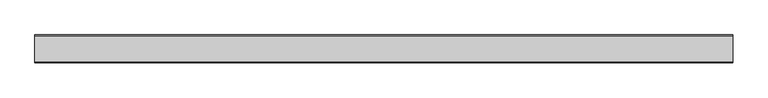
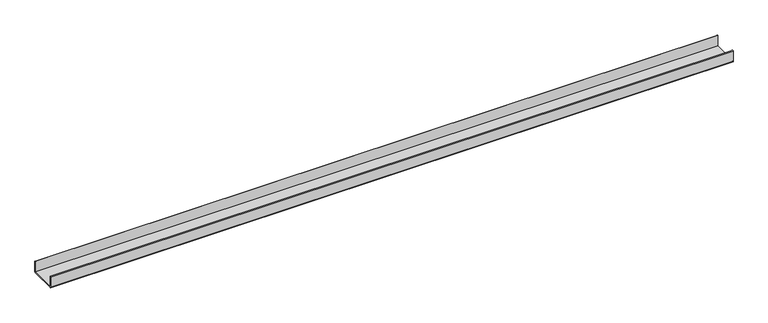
"""IFC4 building model written with IfcOpenShell, lengths in millimetres: duct fitting geometry, Профиль DLP - 35х80 - 2 м - без крышки - белый : Профиль DLP - 35х80 - 2 м - без крышки - белый."""

from ifc_helpers import new_model, si_unit, point, frame, frame_2d, origin, place, context, project, spatial, polyline, circle_curve, trimmed, segment, composite_curve, outline, extrude, source, transform, mapped, element, save


def duct_fitting_4d7b12ad(model_context):
    return source(origin(), model_context, "Body", "SweptSolid", [
        extrude(outline(composite_curve([segment(trimmed(circle_curve(frame_2d((-38.0, 33.0)), 2.0), [point((-40.0, 33.0))], [point((-38.0, 35.0))], False, "CARTESIAN"), True, "CONTINUOUS"), segment(polyline([(-38.0, 35.0), (-38.0, 2.0), (38.0, 2.0), (38.0, 35.0)]), True, "CONTINUOUS"), segment(trimmed(circle_curve(frame_2d((38.0, 33.0)), 2.0), [point((38.0, 35.0))], [point((40.0, 33.0))], False, "CARTESIAN"), True, "CONTINUOUS"), segment(polyline([(40.0, 33.0), (40.0, 2.0)]), True, "CONTINUOUS"), segment(trimmed(circle_curve(frame_2d((38.0, 2.0)), 2.0), [point((40.0, 2.0))], [point((38.0, 0.0))], False, "CARTESIAN"), True, "CONTINUOUS"), segment(polyline([(38.0, 0.0), (-38.0, 0.0)]), True, "CONTINUOUS"), segment(trimmed(circle_curve(frame_2d((-38.0, 2.0)), 2.0), [point((-38.0, 0.0))], [point((-40.0, 2.0))], False, "CARTESIAN"), True, "CONTINUOUS"), segment(polyline([(-40.0, 2.0), (-40.0, 33.0)]), True, "CONTINUOUS")], self_intersect=False)), frame((-1000.0, 0.0, 0.0), z_axis=(1.0, 0.0, 0.0), x_axis=(0.0, 1.0, 0.0)), (0.0, 0.0, 1.0), 2000.0),
    ])


if __name__ == "__main__":
    model = new_model("IFC4")
    model_context = context("Model", 3, world=origin())
    ifc_project = project(units=[si_unit("LENGTHUNIT", "METRE", prefix="MILLI")], contexts=[model_context])
    site = spatial("IfcSite", under=ifc_project)
    building = spatial("IfcBuilding", under=site)
    placement = place(None, origin())
    duct_fitting_shape = duct_fitting_4d7b12ad(model_context)
    element("IfcDuctFitting", 1, ObjectType="Профиль DLP - 35х80 - 2 м - без крышки - белый : Профиль DLP - 35х80 - 2 м - без крышки - белый", at=placement, inside=building, context=model_context, shape_type="MappedRepresentation", body=[
        mapped(duct_fitting_shape, transform((0.0, 0.0, 0.0), x_axis=(1.0, 0.0, 0.0), y_axis=(0.0, 1.0, 0.0), z_axis=(0.0, 0.0, 1.0))),
    ])
    save(model, "model.ifc")
